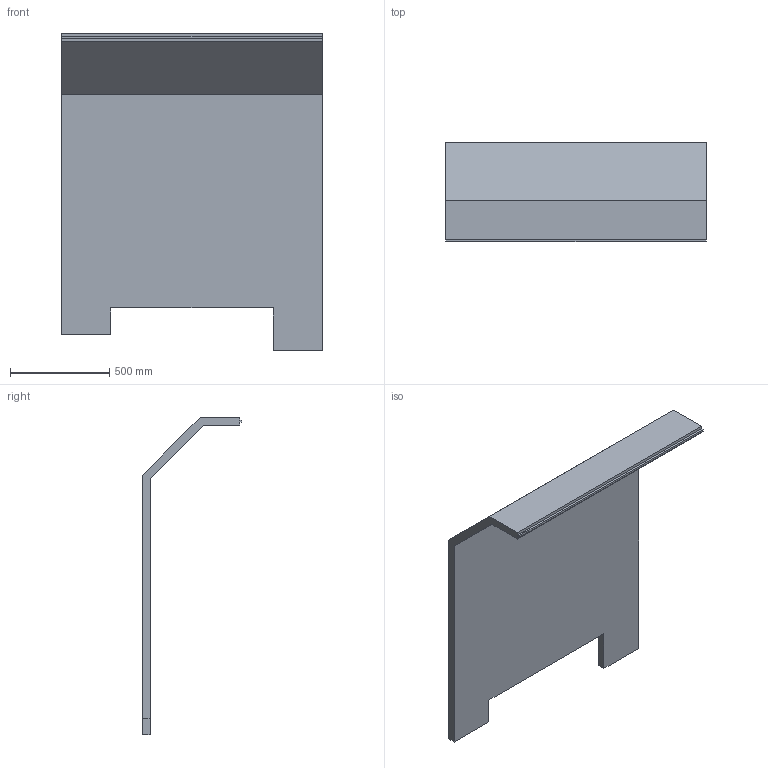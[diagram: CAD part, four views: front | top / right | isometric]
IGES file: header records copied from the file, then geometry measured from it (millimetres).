
Start section: START RECORD GO HERE.
Global section: file name: CU-guillotine-porte.igs; native system: IBM CATIA IGES - CATIA Version 5 Release 11 ; preprocessor: CATIA Version 5 Release 11 ; author: mta; organization: MONTREUIL; date: 20031030.114918; units: millimetre
Bounding box: 1315 x 501.57 x 1599 mm (x, y, z)
Surface area: 4863079.7 mm2 (no closed solid volume)
Topology: 0 solids, 0 shells, 18 faces, 96 edges, 96 vertices
Faces by surface type: plane 18
